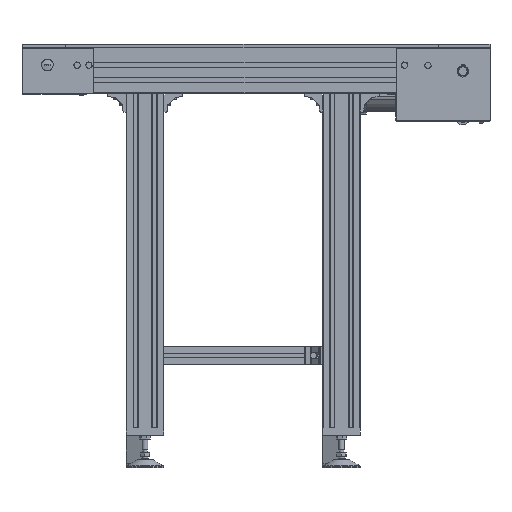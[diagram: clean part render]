
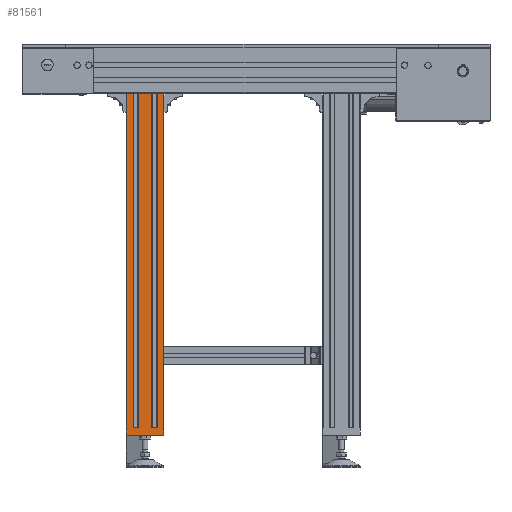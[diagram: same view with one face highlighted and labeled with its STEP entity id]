
A CAD part, front view. The second image highlights one B-rep face of the part: STEP entity #81561.
In plain terms, the highlighted planar face has unit normal (0, -1, 0).
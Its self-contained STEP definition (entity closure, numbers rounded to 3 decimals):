
#8602=FACE_OUTER_BOUND('',#13427,.T.);
#13427=EDGE_LOOP('',(#63527,#63528,#63529,#63530,#63531,#63532,#63533,#63534,
#63535,#63536,#63537,#63538,#63539,#63540,#63541,#63542));
#16607=LINE('',#116316,#24248);
#16623=LINE('',#116360,#24264);
#16639=LINE('',#116404,#24280);
#20128=LINE('',#128715,#27769);
#20436=LINE('',#130126,#28077);
#20453=LINE('',#130172,#28094);
#20469=LINE('',#130217,#28110);
#20470=LINE('',#130221,#28111);
#20534=LINE('',#130402,#28175);
#20580=LINE('',#130675,#28221);
#20786=LINE('',#131107,#28427);
#20787=LINE('',#131109,#28428);
#20788=LINE('',#131110,#28429);
#20789=LINE('',#131111,#28430);
#20790=LINE('',#131112,#28431);
#20791=LINE('',#131113,#28432);
#24248=VECTOR('',#93579,13.45);
#24264=VECTOR('',#93607,28.9);
#24280=VECTOR('',#93635,13.45);
#27769=VECTOR('',#102986,15.);
#28077=VECTOR('',#103958,1.);
#28094=VECTOR('',#103989,11.1);
#28110=VECTOR('',#104019,11.1);
#28111=VECTOR('',#104024,1.);
#28175=VECTOR('',#104154,80.);
#28221=VECTOR('',#104330,15.);
#28427=VECTOR('',#104864,715.);
#28428=VECTOR('',#104867,715.);
#28429=VECTOR('',#104868,715.);
#28430=VECTOR('',#104869,715.);
#28431=VECTOR('',#104870,715.);
#28432=VECTOR('',#104871,715.);
#32024=VERTEX_POINT('',#116313);
#32025=VERTEX_POINT('',#116315);
#32046=VERTEX_POINT('',#116357);
#32047=VERTEX_POINT('',#116359);
#32068=VERTEX_POINT('',#116401);
#32069=VERTEX_POINT('',#116403);
#35463=VERTEX_POINT('',#128712);
#35464=VERTEX_POINT('',#128714);
#35909=VERTEX_POINT('',#130122);
#35911=VERTEX_POINT('',#130125);
#35913=VERTEX_POINT('',#130130);
#35933=VERTEX_POINT('',#130170);
#35935=VERTEX_POINT('',#130175);
#35955=VERTEX_POINT('',#130215);
#35956=VERTEX_POINT('',#130219);
#36040=VERTEX_POINT('',#130400);
#39916=EDGE_CURVE('',#32024,#32025,#16607,.T.);
#39938=EDGE_CURVE('',#32046,#32047,#16623,.T.);
#39960=EDGE_CURVE('',#32068,#32069,#16639,.T.);
#44956=EDGE_CURVE('',#35464,#35463,#20128,.T.);
#45512=EDGE_CURVE('',#35911,#35909,#20436,.T.);
#45535=EDGE_CURVE('',#35913,#35933,#20453,.T.);
#45557=EDGE_CURVE('',#35935,#35955,#20469,.T.);
#45559=EDGE_CURVE('',#35956,#35464,#20470,.T.);
#45649=EDGE_CURVE('',#35463,#36040,#20534,.T.);
#45730=EDGE_CURVE('',#35911,#36040,#20580,.T.);
#45948=EDGE_CURVE('',#35909,#32069,#20786,.T.);
#45949=EDGE_CURVE('',#35913,#32068,#20787,.T.);
#45950=EDGE_CURVE('',#35933,#32047,#20788,.T.);
#45951=EDGE_CURVE('',#35935,#32046,#20789,.T.);
#45952=EDGE_CURVE('',#35955,#32025,#20790,.T.);
#45953=EDGE_CURVE('',#35956,#32024,#20791,.T.);
#63527=ORIENTED_EDGE('',*,*,#45948,.T.);
#63528=ORIENTED_EDGE('',*,*,#39960,.F.);
#63529=ORIENTED_EDGE('',*,*,#45949,.F.);
#63530=ORIENTED_EDGE('',*,*,#45535,.T.);
#63531=ORIENTED_EDGE('',*,*,#45950,.T.);
#63532=ORIENTED_EDGE('',*,*,#39938,.F.);
#63533=ORIENTED_EDGE('',*,*,#45951,.F.);
#63534=ORIENTED_EDGE('',*,*,#45557,.T.);
#63535=ORIENTED_EDGE('',*,*,#45952,.T.);
#63536=ORIENTED_EDGE('',*,*,#39916,.F.);
#63537=ORIENTED_EDGE('',*,*,#45953,.F.);
#63538=ORIENTED_EDGE('',*,*,#45559,.T.);
#63539=ORIENTED_EDGE('',*,*,#44956,.T.);
#63540=ORIENTED_EDGE('',*,*,#45649,.T.);
#63541=ORIENTED_EDGE('',*,*,#45730,.F.);
#63542=ORIENTED_EDGE('',*,*,#45512,.T.);
#73617=PLANE('',#87813);
#81561=ADVANCED_FACE('',(#8602),#73617,.T.);
#87813=AXIS2_PLACEMENT_3D('',#131108,#104865,#104866);
#93579=DIRECTION('',(1.,0.,0.));
#93607=DIRECTION('',(1.,0.,0.));
#93635=DIRECTION('',(1.,0.,0.));
#102986=DIRECTION('',(0.,0.,-1.));
#103958=DIRECTION('',(-1.,0.,0.));
#103989=DIRECTION('',(-1.,0.,0.));
#104019=DIRECTION('',(-1.,0.,0.));
#104024=DIRECTION('',(-1.,0.,0.));
#104154=DIRECTION('',(1.,0.,0.));
#104330=DIRECTION('',(0.,0.,-1.));
#104864=DIRECTION('',(0.,0.,1.));
#104865=DIRECTION('center_axis',(0.,-1.,0.));
#104866=DIRECTION('ref_axis',(1.,0.,0.));
#104867=DIRECTION('',(0.,0.,1.));
#104868=DIRECTION('',(0.,0.,1.));
#104869=DIRECTION('',(0.,0.,1.));
#104870=DIRECTION('',(0.,0.,1.));
#104871=DIRECTION('',(0.,0.,1.));
#116313=CARTESIAN_POINT('',(224.,-125.,1.45));
#116315=CARTESIAN_POINT('',(237.45,-125.,1.45));
#116316=CARTESIAN_POINT('',(224.,-125.,1.45));
#116357=CARTESIAN_POINT('',(248.55,-125.,1.45));
#116359=CARTESIAN_POINT('',(277.45,-125.,1.45));
#116360=CARTESIAN_POINT('',(248.55,-125.,1.45));
#116401=CARTESIAN_POINT('',(288.55,-125.,1.45));
#116403=CARTESIAN_POINT('',(302.,-125.,1.45));
#116404=CARTESIAN_POINT('',(288.55,-125.,1.45));
#128712=CARTESIAN_POINT('',(223.,-125.,-728.55));
#128714=CARTESIAN_POINT('',(223.,-125.,-713.55));
#128715=CARTESIAN_POINT('',(223.,-125.,-713.55));
#130122=CARTESIAN_POINT('',(302.,-125.,-713.55));
#130125=CARTESIAN_POINT('',(303.,-125.,-713.55));
#130126=CARTESIAN_POINT('',(303.,-125.,-713.55));
#130130=CARTESIAN_POINT('',(288.55,-125.,-713.55));
#130170=CARTESIAN_POINT('',(277.45,-125.,-713.55));
#130172=CARTESIAN_POINT('',(303.,-125.,-713.55));
#130175=CARTESIAN_POINT('',(248.55,-125.,-713.55));
#130215=CARTESIAN_POINT('',(237.45,-125.,-713.55));
#130217=CARTESIAN_POINT('',(303.,-125.,-713.55));
#130219=CARTESIAN_POINT('',(224.,-125.,-713.55));
#130221=CARTESIAN_POINT('',(303.,-125.,-713.55));
#130400=CARTESIAN_POINT('',(303.,-125.,-728.55));
#130402=CARTESIAN_POINT('',(303.,-125.,-728.55));
#130675=CARTESIAN_POINT('',(303.,-125.,-713.55));
#131107=CARTESIAN_POINT('',(302.,-125.,-713.55));
#131108=CARTESIAN_POINT('Origin',(288.55,-125.,-713.55));
#131109=CARTESIAN_POINT('',(288.55,-125.,-713.55));
#131110=CARTESIAN_POINT('',(277.45,-125.,-713.55));
#131111=CARTESIAN_POINT('',(248.55,-125.,-713.55));
#131112=CARTESIAN_POINT('',(237.45,-125.,-713.55));
#131113=CARTESIAN_POINT('',(224.,-125.,-713.55));
